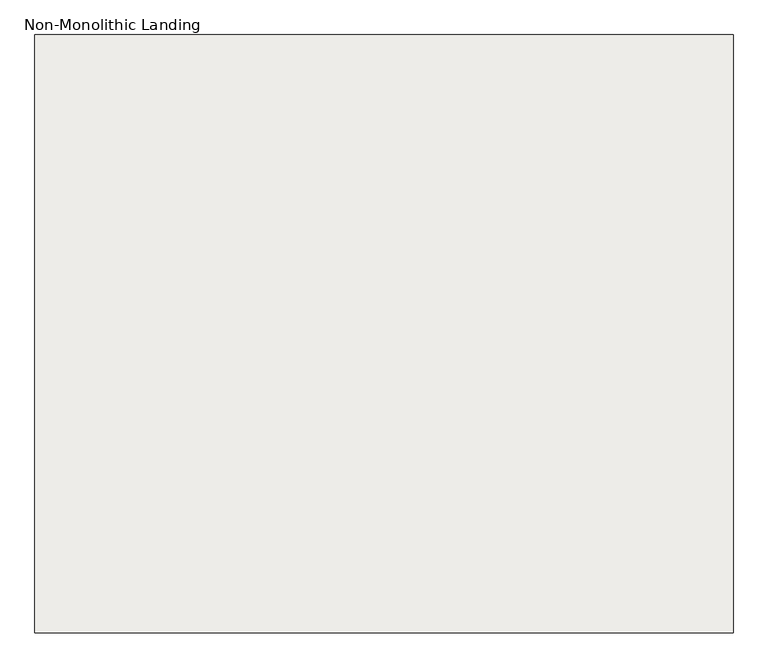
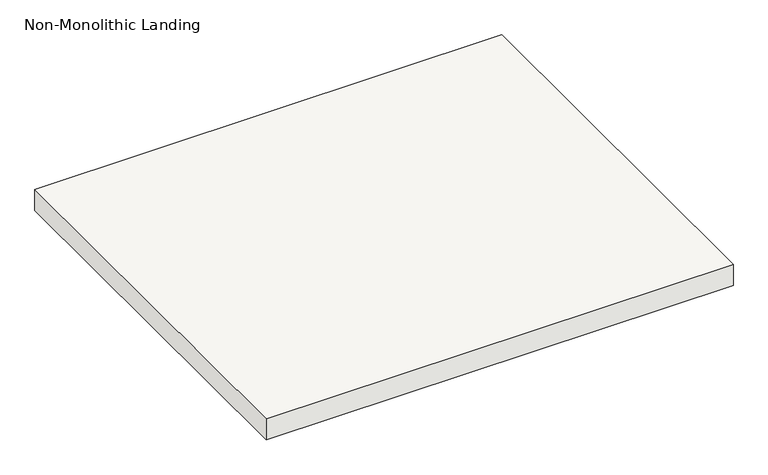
"""IFC4 building model written with IfcOpenShell, lengths in millimetres: slab geometry, Non-Monolithic Landing."""

import ifcopenshell
import ifcopenshell.guid

model = None  # the IFC model being written
_history = None  # IfcOwnerHistory: only IFC2X3 demands one
_inside = {}  # id of a spatial element -> (the spatial element, [elements in it])
_under = {}  # id of a project, library or spatial element -> (it, [spatial elements below it])
_declared = {}  # id of a project -> (the project, [libraries it declares])
_typed = {}  # id of a type object -> (the type object, [elements of that type])
_made_of = {}  # id of a material, layer set ... -> (it, [elements and type objects made of it])


def new_model(schema):
    """Start an empty IFC model of exactly this schema.

    Asked for "IFC4X3", IfcOpenShell would pick the latest addendum, in which some entities
    have other attributes; the version numbers below select the first issue.
    IFC2X3 requires an IfcOwnerHistory on every rooted entity: one is made here for all.
    """
    global model, _history
    if schema == "IFC4X3":
        model = ifcopenshell.file(schema_version=(4, 3, 0, 0))
    else:
        model = ifcopenshell.file(schema=schema)
    _inside.clear()
    _under.clear()
    _declared.clear()
    _typed.clear()
    _made_of.clear()
    _history = None
    if model.schema == "IFC2X3":
        org = make("IfcOrganization", Name="unknown")
        user = make(
            "IfcPersonAndOrganization",
            ThePerson=make("IfcPerson", FamilyName="unknown"),
            TheOrganization=org,
        )
        app = make(
            "IfcApplication",
            ApplicationDeveloper=org,
            Version="unknown",
            ApplicationFullName="unknown",
            ApplicationIdentifier="unknown",
        )
        _history = make(
            "IfcOwnerHistory",
            OwningUser=user,
            OwningApplication=app,
            ChangeAction="ADDED",
            CreationDate=0,
        )
    return model


def make(cls, **values):
    """One entity of the class cls with the attributes given. An attribute that is None is left unset."""
    return model.create_entity(
        cls, **{name: value for name, value in values.items() if value is not None}
    )


def rooted(cls, **values):
    """An entity with a GlobalId (a new one), such as an element, a storey or a relation."""
    return make(cls, GlobalId=ifcopenshell.guid.new(), OwnerHistory=_history, **values)


def si_unit(unit_type, name, prefix=None):
    """IfcSIUnit, for example si_unit("LENGTHUNIT", "METRE", prefix="MILLI")."""
    return make("IfcSIUnit", UnitType=unit_type, Prefix=prefix, Name=name)


def assignment(units):
    """IfcUnitAssignment: the units of a project."""
    return None if units is None else make("IfcUnitAssignment", Units=units)


def point(xyz):
    """IfcCartesianPoint."""
    return None if xyz is None else make("IfcCartesianPoint", Coordinates=xyz)


def direction(xyz):
    """IfcDirection."""
    return None if xyz is None else make("IfcDirection", DirectionRatios=xyz)


def frame(location, z_axis=None, x_axis=None):
    """IfcAxis2Placement3D, a coordinate frame: its origin and axes. An axis left out is left unset."""
    return make(
        "IfcAxis2Placement3D",
        Location=point(location),
        Axis=direction(z_axis),
        RefDirection=direction(x_axis),
    )


def origin():
    """The frame at (0, 0, 0) with its axes left unset."""
    return frame((0.0, 0.0, 0.0))


def place(relative_to, where):
    """IfcLocalPlacement: puts the frame where relative to a parent placement (None: the world)."""
    return make(
        "IfcLocalPlacement", PlacementRelTo=relative_to, RelativePlacement=where
    )


def context(
    kind, dimensions, precision=None, world=None, true_north=None, identifier=None
):
    """IfcGeometricRepresentationContext, for example the 3D "Model" context."""
    return make(
        "IfcGeometricRepresentationContext",
        ContextIdentifier=identifier,
        ContextType=kind,
        CoordinateSpaceDimension=dimensions,
        Precision=precision,
        WorldCoordinateSystem=world,
        TrueNorth=true_north,
    )


def project(units=None, contexts=None):
    """IfcProject with its units and contexts."""
    return rooted(
        "IfcProject",
        Name="project",
        RepresentationContexts=contexts,
        UnitsInContext=assignment(units),
    )


def spatial(cls, under=None, at=None, **own):
    """A site, building, storey or space (cls), placed at a placement, below another one or the project."""
    s = rooted(cls, ObjectPlacement=at, **own)
    if under is not None:
        _under.setdefault(under.id(), (under, []))[1].append(s)
    return s


def polyline(points):
    """IfcPolyline through the points."""
    return make("IfcPolyline", Points=[point(p) for p in points])


def outline(outer, holes=None, kind="AREA"):
    """IfcArbitraryClosedProfileDef: a profile drawn as a closed curve; with holes, ...WithVoids."""
    if holes is None:
        return make("IfcArbitraryClosedProfileDef", ProfileType=kind, OuterCurve=outer)
    return make(
        "IfcArbitraryProfileDefWithVoids",
        ProfileType=kind,
        OuterCurve=outer,
        InnerCurves=holes,
    )


def extrude(swept, where, along, depth):
    """IfcExtrudedAreaSolid: the profile swept, set in the frame where, extruded along a direction by depth."""
    return make(
        "IfcExtrudedAreaSolid",
        SweptArea=swept,
        Position=where,
        ExtrudedDirection=direction(along),
        Depth=depth,
    )


def shape(context_of_items, identifier, shape_type, items):
    """IfcShapeRepresentation: the items that make up one representation, for example the "Body"."""
    return make(
        "IfcShapeRepresentation",
        ContextOfItems=context_of_items,
        RepresentationIdentifier=identifier,
        RepresentationType=shape_type,
        Items=items,
    )


def source(mapping_origin, context_of_items, identifier, shape_type, items):
    """IfcRepresentationMap: a shape defined once, which mapped items show again and again."""
    return make(
        "IfcRepresentationMap",
        MappingOrigin=mapping_origin,
        MappedRepresentation=shape(context_of_items, identifier, shape_type, items),
    )


def transform(
    local_origin,
    x_axis=None,
    y_axis=None,
    z_axis=None,
    scale=None,
    scale2=None,
    scale3=None,
    uniform=True,
):
    """IfcCartesianTransformationOperator3D, or its non-uniform kind. x_axis, y_axis, z_axis: its Axis1, 2, 3."""
    if uniform:
        return make(
            "IfcCartesianTransformationOperator3D",
            Axis1=direction(x_axis),
            Axis2=direction(y_axis),
            LocalOrigin=point(local_origin),
            Scale=scale,
            Axis3=direction(z_axis),
        )
    return make(
        "IfcCartesianTransformationOperator3DnonUniform",
        Axis1=direction(x_axis),
        Axis2=direction(y_axis),
        LocalOrigin=point(local_origin),
        Scale=scale,
        Axis3=direction(z_axis),
        Scale2=scale2,
        Scale3=scale3,
    )


def mapped(mapping_source, mapping_target):
    """IfcMappedItem: shows the shape of a source again, moved by a transform."""
    return make(
        "IfcMappedItem", MappingSource=mapping_source, MappingTarget=mapping_target
    )


def made_of(thing, what):
    """Note that an element or type object is made of a material, layer set ...; save() writes the relation."""
    if what is not None:
        _made_of.setdefault(what.id(), (what, []))[1].append(thing)
    return thing


def element(
    cls,
    number,
    at=None,
    inside=None,
    cuts=None,
    type_object=None,
    material=None,
    context=None,
    identifier="Body",
    shape_type=None,
    held_by="IfcProductDefinitionShape",
    body=None,
    shapes=None,
    **own,
):
    """One element of the class cls, such as IfcWall. Its Tag is "e" and its number.

    at: its placement. inside: the storey or other place that contains it. cuts: it is an
    opening in that element (IfcRelVoidsElement). A single representation is given by context,
    identifier, shape_type and body (its items); several are given by shapes. held_by: the class
    of the entity that holds the representations. save() writes the other relations.
    """
    e = rooted(cls, Tag="e%d" % number, ObjectPlacement=at, **own)
    if body is not None:
        shapes = [shape(context, identifier, shape_type, body)]
    if shapes is not None:
        e.Representation = make(held_by, Representations=shapes)
    if inside is not None:
        _inside.setdefault(inside.id(), (inside, []))[1].append(e)
    if cuts is not None:
        rooted(
            "IfcRelVoidsElement", RelatingBuildingElement=cuts, RelatedOpeningElement=e
        )
    if type_object is not None:
        _typed.setdefault(type_object.id(), (type_object, []))[1].append(e)
    return made_of(e, material)


def aggregate(whole, parts):
    """IfcRelAggregates: a whole, such as a stair, and the parts it consists of."""
    return rooted("IfcRelAggregates", RelatingObject=whole, RelatedObjects=parts)


def save(model, path):
    """Write the relations noted so far, then the file.

    IfcRelAggregates (storeys below a building ...), IfcRelContainedInSpatialStructure (elements
    in a storey), IfcRelDefinesByType, IfcRelAssociatesMaterial and IfcRelDeclares: one each for
    every whole, place, type object, material and project.
    """
    for whole, parts in _under.values():
        aggregate(whole, parts)
    for where, things in _inside.values():
        rooted(
            "IfcRelContainedInSpatialStructure",
            RelatedElements=things,
            RelatingStructure=where,
        )
    for kind, things in _typed.values():
        rooted("IfcRelDefinesByType", RelatedObjects=things, RelatingType=kind)
    for what, things in _made_of.values():
        rooted("IfcRelAssociatesMaterial", RelatedObjects=things, RelatingMaterial=what)
    for by, libraries in _declared.values():
        rooted("IfcRelDeclares", RelatingContext=by, RelatedDefinitions=libraries)
    model.write(path)


def non_monolithic_landing_26f0ee61(model_context):
    return source(origin(), model_context, "Body", "SweptSolid", [
        extrude(outline(polyline([(163288.0682615, -34537.0428514), (164354.8682615, -34537.0428514), (164354.8682615, -35451.4428514), (163288.0682615, -35451.4428514), (163288.0682615, -34537.0428514)])), frame((0.0, 0.0, 2195.0947368), z_axis=(0.0, 0.0, 1.0), x_axis=(1.0, 0.0, 0.0)), (0.0, 0.0, 1.0), 50.8),
    ])


if __name__ == "__main__":
    model = new_model("IFC4")
    model_context = context("Model", 3, world=origin())
    ifc_project = project(units=[si_unit("LENGTHUNIT", "METRE", prefix="MILLI")], contexts=[model_context])
    site = spatial("IfcSite", under=ifc_project)
    building = spatial("IfcBuilding", under=site)
    placement = place(None, origin())
    non_monolithic_landing_shape = non_monolithic_landing_26f0ee61(model_context)
    element("IfcSlab", 1, ObjectType="Non-Monolithic Landing", at=placement, inside=building, context=model_context, shape_type="MappedRepresentation", body=[
        mapped(non_monolithic_landing_shape, transform((0.0, 0.0, 0.0), x_axis=(1.0, 0.0, 0.0), y_axis=(0.0, 1.0, 0.0), z_axis=(0.0, 0.0, 1.0))),
    ])
    save(model, "model.ifc")
